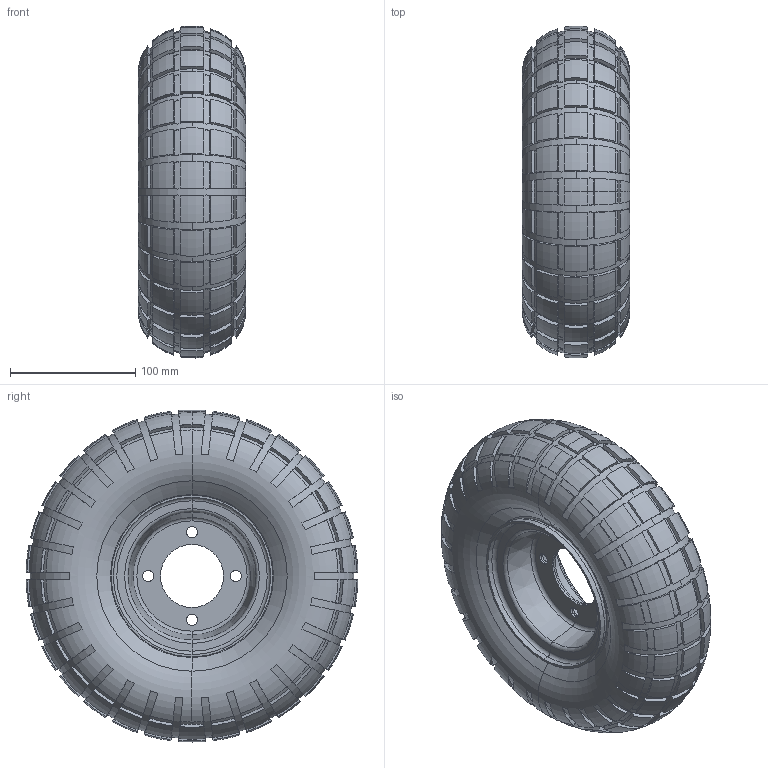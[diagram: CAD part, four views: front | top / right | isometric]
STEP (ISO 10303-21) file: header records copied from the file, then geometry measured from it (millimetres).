
FILE_DESCRIPTION (( 'STEP AP214' ), '1' );
FILE_NAME ('wheel2.STEP', '2021-08-26T10:36:27', ( '' ), ( '' ), 'SwSTEP 2.0', 'SolidWorks 2018', '' );
FILE_SCHEMA (( 'AUTOMOTIVE_DESIGN' ));
Length unit declared in the file: millimetre
Products named in the file (1): wheel2
Bounding box: 85.57 x 264.72 x 264.79 mm (x, y, z)
Volume: 1499225.4 mm3; surface area: 336244.7 mm2
Topology: 3 solids, 3 shells, 987 faces, 2870 edges, 1891 vertices
Faces by surface type: cone 392, plane 308, torus 201, cylinder 86
Entity records: 49793 total; most frequent: CARTESIAN_POINT 15059, ORIENTED_EDGE 5740, DIRECTION 4268, EDGE_CURVE 2870, AXIS2_PLACEMENT_3D 2090, VERTEX_POINT 1891, B_SPLINE_CURVE_WITH_KNOTS 1680, CIRCLE 1102
